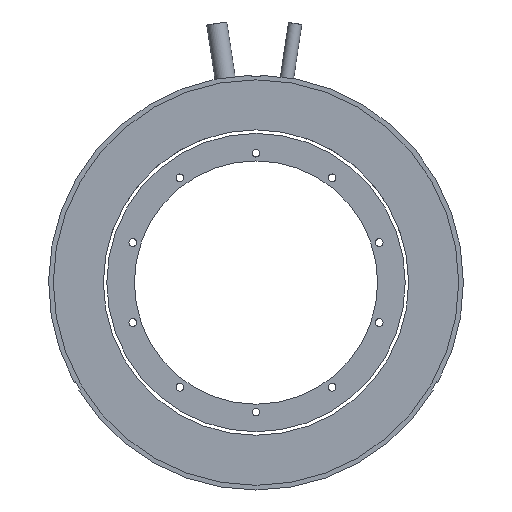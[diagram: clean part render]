
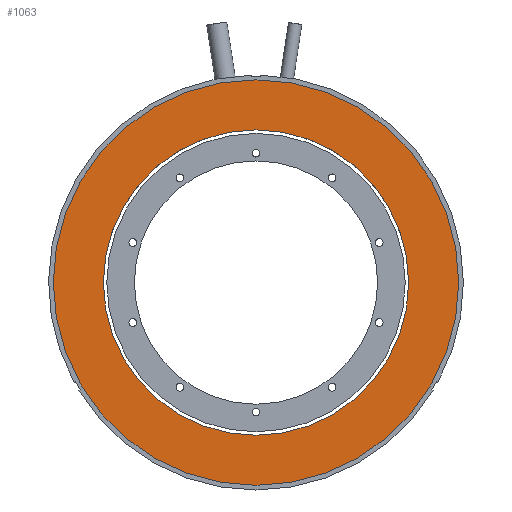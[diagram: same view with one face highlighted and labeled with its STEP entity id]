
A CAD part, front view. The second image highlights one B-rep face of the part: STEP entity #1063.
In plain terms, the highlighted planar face has unit normal (0, -1, 0) as drawn and (0, 0, -1) by its records, which use the part's own axes.
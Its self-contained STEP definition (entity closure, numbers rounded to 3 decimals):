
#228 = DIRECTION ( 'NONE',  ( 0., -1., 0. ) ) ;
#233 = DIRECTION ( 'NONE',  ( 0., 0., 1. ) ) ;
#240 = DIRECTION ( 'NONE',  ( 0., 0., -1. ) ) ;
#331 = EDGE_CURVE ( 'NONE', #1253, #1004, #1565, .T. ) ;
#362 = AXIS2_PLACEMENT_3D ( 'NONE', #1360, #459, #2077 ) ;
#459 = DIRECTION ( 'NONE',  ( 0., 0., 1. ) ) ;
#484 = AXIS2_PLACEMENT_3D ( 'NONE', #573, #233, #901 ) ;
#557 = EDGE_CURVE ( 'NONE', #1708, #1449, #1882, .T. ) ;
#573 = CARTESIAN_POINT ( 'NONE',  ( 0., 0., 0. ) ) ;
#675 = DIRECTION ( 'NONE',  ( 1., 0., 0. ) ) ;
#685 = EDGE_CURVE ( 'NONE', #1004, #1253, #988, .T. ) ;
#750 = FACE_BOUND ( 'NONE', #915, .T. ) ;
#774 = PLANE ( 'NONE',  #2029 ) ;
#786 = CARTESIAN_POINT ( 'NONE',  ( 0., 0., 0. ) ) ;
#821 = ORIENTED_EDGE ( 'NONE', *, *, #331, .T. ) ;
#901 = DIRECTION ( 'NONE',  ( 1., 0., 0. ) ) ;
#915 = EDGE_LOOP ( 'NONE', ( #2076, #821 ) ) ;
#988 = CIRCLE ( 'NONE', #1595, 48.95 ) ;
#1004 = VERTEX_POINT ( 'NONE', #1312 ) ;
#1057 = ORIENTED_EDGE ( 'NONE', *, *, #1721, .F. ) ;
#1063 = ADVANCED_FACE ( 'NONE', ( #750, #1329 ), #774, .T. ) ;
#1084 = EDGE_LOOP ( 'NONE', ( #1287, #1057 ) ) ;
#1214 = CIRCLE ( 'NONE', #362, 65. ) ;
#1221 = DIRECTION ( 'NONE',  ( 0., 0., 1. ) ) ;
#1253 = VERTEX_POINT ( 'NONE', #1893 ) ;
#1287 = ORIENTED_EDGE ( 'NONE', *, *, #557, .F. ) ;
#1312 = CARTESIAN_POINT ( 'NONE',  ( 48.95, 0., 0. ) ) ;
#1329 = FACE_OUTER_BOUND ( 'NONE', #1084, .T. ) ;
#1360 = CARTESIAN_POINT ( 'NONE',  ( 0., 0., 0. ) ) ;
#1449 = VERTEX_POINT ( 'NONE', #2306 ) ;
#1565 = CIRCLE ( 'NONE', #484, 48.95 ) ;
#1595 = AXIS2_PLACEMENT_3D ( 'NONE', #2094, #1221, #675 ) ;
#1703 = DIRECTION ( 'NONE',  ( 1., 0., 0. ) ) ;
#1708 = VERTEX_POINT ( 'NONE', #2216 ) ;
#1721 = EDGE_CURVE ( 'NONE', #1449, #1708, #1214, .T. ) ;
#1810 = AXIS2_PLACEMENT_3D ( 'NONE', #786, #1861, #1703 ) ;
#1825 = CARTESIAN_POINT ( 'NONE',  ( 65., 0., 0. ) ) ;
#1861 = DIRECTION ( 'NONE',  ( 0., 0., 1. ) ) ;
#1882 = CIRCLE ( 'NONE', #1810, 65. ) ;
#1893 = CARTESIAN_POINT ( 'NONE',  ( -48.95, 0., 0. ) ) ;
#2029 = AXIS2_PLACEMENT_3D ( 'NONE', #1825, #240, #228 ) ;
#2076 = ORIENTED_EDGE ( 'NONE', *, *, #685, .T. ) ;
#2077 = DIRECTION ( 'NONE',  ( 1., 0., 0. ) ) ;
#2094 = CARTESIAN_POINT ( 'NONE',  ( 0., 0., 0. ) ) ;
#2216 = CARTESIAN_POINT ( 'NONE',  ( 65., 0., 0. ) ) ;
#2306 = CARTESIAN_POINT ( 'NONE',  ( -65., 0., 0. ) ) ;
